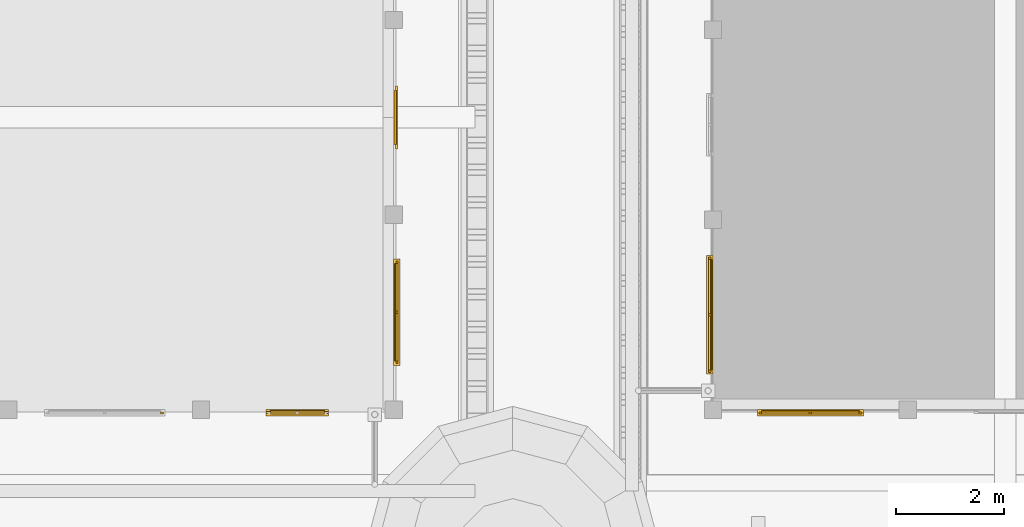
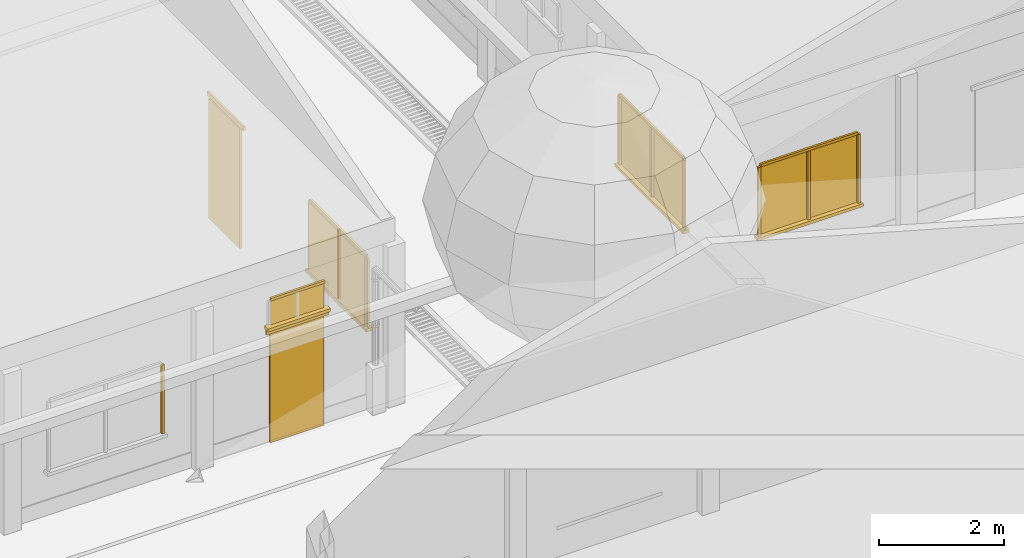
# One storey, part 57 of 166: 22 windows, 4 doors.
"""IFC2X3 building model written with IfcOpenShell, lengths in metres."""

from ifc_helpers import new_model, si_unit, origin, origin_with_axes, place, context, subcontext, project, spatial, faceted_brep, element, save


model = new_model("IFC2X3")

# Units and contexts
model_context = context("Model", 3, precision=1e-05, world=origin_with_axes())
body_context = subcontext(model_context, "Body", "Model", "MODEL_VIEW")
ifc_project = project(units=[si_unit("LENGTHUNIT", "METRE"), si_unit("AREAUNIT", "SQUARE_METRE"), si_unit("VOLUMEUNIT", "CUBIC_METRE"), si_unit("PLANEANGLEUNIT", "RADIAN")], contexts=[model_context])

# Site, building, storey
site_placement = place(None, origin_with_axes())
site = spatial("IfcSite", under=ifc_project, at=site_placement, Name="Predio Los Mangos - Morales, San Martín", CompositionType="ELEMENT")
building_placement = place(site_placement, origin())
building = spatial("IfcBuilding", under=site, at=building_placement, Name="Hogar de Refugio Temporal", CompositionType="ELEMENT")
storey_placement = place(building_placement, origin())
storey = spatial("IfcBuildingStorey", under=building, at=storey_placement, Name="NIVEL 1 (NPT +0.00)", CompositionType="ELEMENT", Elevation=0.0)

# Window
window_1_placement = place(storey_placement, origin())
element("IfcWindow", 1, at=window_1_placement, inside=storey, Name="E-06_v3_m", ObjectType="Ventana", context=body_context, shape_type="Brep", body=[
    faceted_brep([(45.4924, 92.62, 1.05), (45.4924, 92.66, 1.05), (45.5424, 92.66, 1.05), (45.5424, 92.62, 1.05), (45.4924, 92.62, 2.4), (45.5424, 92.62, 2.4), (45.5424, 92.66, 2.4), (45.4924, 92.66, 2.4)], [[[0, 1, 2, 3]], [[4, 5, 6, 7]], [[0, 3, 5, 4]], [[3, 2, 6, 5]], [[2, 1, 7, 6]], [[1, 0, 4, 7]]]),
])

# Doors
door_1_placement = place(storey_placement, origin())
element("IfcDoor", 2, at=door_1_placement, inside=storey, Name="E-06_p4", ObjectType="Puerta", context=body_context, shape_type="Brep", body=[
    faceted_brep([(47.52, 92.65, 0.15), (47.52, 92.69, 0.15), (48.52, 92.69, 0.15), (48.52, 92.65, 0.15), (47.52, 92.65, 2.3), (48.52, 92.65, 2.3), (48.52, 92.69, 2.3), (47.52, 92.69, 2.3)], [[[0, 1, 2, 3]], [[4, 5, 6, 7]], [[0, 3, 5, 4]], [[3, 2, 6, 5]], [[2, 1, 7, 6]], [[1, 0, 4, 7]]]),
])
door_2_placement = place(storey_placement, origin())
element("IfcDoor", 3, at=door_2_placement, inside=storey, Name="E-06_p4_marco", ObjectType="Puerta", context=body_context, shape_type="Brep", body=[
    faceted_brep([(47.44, 92.63, 2.3), (47.44, 92.67, 2.3), (48.6, 92.67, 2.3), (48.6, 92.63, 2.3), (47.44, 92.63, 2.38), (48.6, 92.63, 2.38), (48.6, 92.67, 2.38), (47.44, 92.67, 2.38)], [[[0, 1, 2, 3]], [[4, 5, 6, 7]], [[0, 3, 5, 4]], [[3, 2, 6, 5]], [[2, 1, 7, 6]], [[1, 0, 4, 7]]]),
])

# Windows
window_2_placement = place(storey_placement, origin())
element("IfcWindow", 4, at=window_2_placement, inside=storey, Name="E-06_vt4_vid", ObjectType="Ventana", context=body_context, shape_type="Brep", body=[
    faceted_brep([(47.52, 92.66, 2.45), (47.52, 92.68, 2.45), (48.52, 92.68, 2.45), (48.52, 92.66, 2.45), (47.52, 92.66, 2.95), (48.52, 92.66, 2.95), (48.52, 92.68, 2.95), (47.52, 92.68, 2.95)], [[[0, 1, 2, 3]], [[4, 5, 6, 7]], [[0, 3, 5, 4]], [[3, 2, 6, 5]], [[2, 1, 7, 6]], [[1, 0, 4, 7]]]),
])
window_3_placement = place(storey_placement, origin())
element("IfcWindow", 5, at=window_3_placement, inside=storey, Name="E-06_vt4_m", ObjectType="Ventana", context=body_context, shape_type="Brep", body=[
    faceted_brep([(47.52, 92.62, 2.95), (47.52, 92.66, 2.95), (48.52, 92.66, 2.95), (48.52, 92.62, 2.95), (47.52, 92.62, 3.0), (48.52, 92.62, 3.0), (48.52, 92.66, 3.0), (47.52, 92.66, 3.0)], [[[0, 1, 2, 3]], [[4, 5, 6, 7]], [[0, 3, 5, 4]], [[3, 2, 6, 5]], [[2, 1, 7, 6]], [[1, 0, 4, 7]]]),
])
window_4_placement = place(storey_placement, origin())
element("IfcWindow", 6, at=window_4_placement, inside=storey, Name="E-06_vt4_alf", ObjectType="Ventana", context=body_context, shape_type="Brep", body=[
    faceted_brep([(47.44, 92.7, 2.39), (47.44, 92.58, 2.39), (48.6, 92.58, 2.39), (48.6, 92.7, 2.39), (47.44, 92.7, 2.45), (48.6, 92.7, 2.45), (48.6, 92.58, 2.45), (47.44, 92.58, 2.45)], [[[0, 1, 2, 3]], [[4, 5, 6, 7]], [[0, 3, 5, 4]], [[3, 2, 6, 5]], [[2, 1, 7, 6]], [[1, 0, 4, 7]]]),
])
window_5_placement = place(storey_placement, origin())
element("IfcWindow", 7, at=window_5_placement, inside=storey, Name="E-06_vg0_vid", ObjectType="Ventana", context=body_context, shape_type="Brep", body=[
    faceted_brep([(49.82, 93.6, 1.05), (49.82, 95.4, 1.05), (49.84, 95.4, 1.05), (49.84, 93.6, 1.05), (49.82, 93.6, 2.4), (49.84, 93.6, 2.4), (49.84, 95.4, 2.4), (49.82, 95.4, 2.4)], [[[0, 1, 2, 3]], [[4, 5, 6, 7]], [[0, 3, 5, 4]], [[3, 2, 6, 5]], [[2, 1, 7, 6]], [[1, 0, 4, 7]]]),
])
window_6_placement = place(storey_placement, origin())
element("IfcWindow", 8, at=window_6_placement, inside=storey, Name="E-06_vg0_m", ObjectType="Ventana", context=body_context, shape_type="Brep", body=[
    faceted_brep([(49.84, 93.55, 1.05), (49.84, 93.6, 1.05), (49.88, 93.6, 1.05), (49.88, 93.55, 1.05), (49.84, 93.55, 2.4), (49.88, 93.55, 2.4), (49.88, 93.6, 2.4), (49.84, 93.6, 2.4)], [[[0, 1, 2, 3]], [[4, 5, 6, 7]], [[0, 3, 5, 4]], [[3, 2, 6, 5]], [[2, 1, 7, 6]], [[1, 0, 4, 7]]]),
])
window_7_placement = place(storey_placement, origin())
element("IfcWindow", 9, at=window_7_placement, inside=storey, Name="E-06_vg0_m", ObjectType="Ventana", context=body_context, shape_type="Brep", body=[
    faceted_brep([(49.84, 95.4, 1.05), (49.84, 95.45, 1.05), (49.88, 95.45, 1.05), (49.88, 95.4, 1.05), (49.84, 95.4, 2.4), (49.88, 95.4, 2.4), (49.88, 95.45, 2.4), (49.84, 95.45, 2.4)], [[[0, 1, 2, 3]], [[4, 5, 6, 7]], [[0, 3, 5, 4]], [[3, 2, 6, 5]], [[2, 1, 7, 6]], [[1, 0, 4, 7]]]),
])
window_8_placement = place(storey_placement, origin())
element("IfcWindow", 10, at=window_8_placement, inside=storey, Name="E-06_vg0_m", ObjectType="Ventana", context=body_context, shape_type="Brep", body=[
    faceted_brep([(49.84, 93.6, 2.4), (49.84, 95.4, 2.4), (49.88, 95.4, 2.4), (49.88, 93.6, 2.4), (49.84, 93.6, 2.45), (49.88, 93.6, 2.45), (49.88, 95.4, 2.45), (49.84, 95.4, 2.45)], [[[0, 1, 2, 3]], [[4, 5, 6, 7]], [[0, 3, 5, 4]], [[3, 2, 6, 5]], [[2, 1, 7, 6]], [[1, 0, 4, 7]]]),
])
window_9_placement = place(storey_placement, origin())
element("IfcWindow", 11, at=window_9_placement, inside=storey, Name="E-06_vg0_m", ObjectType="Ventana", context=body_context, shape_type="Brep", body=[
    faceted_brep([(49.84, 94.475, 1.05), (49.84, 94.525, 1.05), (49.88, 94.525, 1.05), (49.88, 94.475, 1.05), (49.84, 94.475, 2.4), (49.88, 94.475, 2.4), (49.88, 94.525, 2.4), (49.84, 94.525, 2.4)], [[[0, 1, 2, 3]], [[4, 5, 6, 7]], [[0, 3, 5, 4]], [[3, 2, 6, 5]], [[2, 1, 7, 6]], [[1, 0, 4, 7]]]),
])
window_10_placement = place(storey_placement, origin())
element("IfcWindow", 12, at=window_10_placement, inside=storey, Name="E-06_vg0_alf", ObjectType="Ventana", context=body_context, shape_type="Brep", body=[
    faceted_brep([(49.8, 93.52, 0.99), (49.8, 95.48, 0.99), (49.92, 95.48, 0.99), (49.92, 93.52, 0.99), (49.8, 93.52, 1.05), (49.92, 93.52, 1.05), (49.92, 95.48, 1.05), (49.8, 95.48, 1.05)], [[[0, 1, 2, 3]], [[4, 5, 6, 7]], [[0, 3, 5, 4]], [[3, 2, 6, 5]], [[2, 1, 7, 6]], [[1, 0, 4, 7]]]),
])

# Doors
door_3_placement = place(storey_placement, origin())
element("IfcDoor", 13, at=door_3_placement, inside=storey, Name="E-06_pp", ObjectType="Puerta", context=body_context, shape_type="Brep", body=[
    faceted_brep([(49.81, 97.6, 0.15), (49.81, 98.6, 0.15), (49.85, 98.6, 0.15), (49.85, 97.6, 0.15), (49.81, 97.6, 2.5), (49.85, 97.6, 2.5), (49.85, 98.6, 2.5), (49.81, 98.6, 2.5)], [[[0, 1, 2, 3]], [[4, 5, 6, 7]], [[0, 3, 5, 4]], [[3, 2, 6, 5]], [[2, 1, 7, 6]], [[1, 0, 4, 7]]]),
])
door_4_placement = place(storey_placement, origin())
element("IfcDoor", 14, at=door_4_placement, inside=storey, Name="E-06_pp_marco", ObjectType="Puerta", context=body_context, shape_type="Brep", body=[
    faceted_brep([(49.83, 97.52, 2.5), (49.83, 98.68, 2.5), (49.87, 98.68, 2.5), (49.87, 97.52, 2.5), (49.83, 97.52, 2.58), (49.87, 97.52, 2.58), (49.87, 98.68, 2.58), (49.83, 98.68, 2.58)], [[[0, 1, 2, 3]], [[4, 5, 6, 7]], [[0, 3, 5, 4]], [[3, 2, 6, 5]], [[2, 1, 7, 6]], [[1, 0, 4, 7]]]),
])

# Windows
window_11_placement = place(storey_placement, origin())
element("IfcWindow", 15, at=window_11_placement, inside=storey, Name="E-07_vg0_vid", ObjectType="Ventana", context=body_context, shape_type="Brep", body=[
    faceted_brep([(56.6, 92.66, 1.05), (56.6, 92.68, 1.05), (58.4, 92.68, 1.05), (58.4, 92.66, 1.05), (56.6, 92.66, 2.4), (58.4, 92.66, 2.4), (58.4, 92.68, 2.4), (56.6, 92.68, 2.4)], [[[0, 1, 2, 3]], [[4, 5, 6, 7]], [[0, 3, 5, 4]], [[3, 2, 6, 5]], [[2, 1, 7, 6]], [[1, 0, 4, 7]]]),
])
window_12_placement = place(storey_placement, origin())
element("IfcWindow", 16, at=window_12_placement, inside=storey, Name="E-07_vg0_m", ObjectType="Ventana", context=body_context, shape_type="Brep", body=[
    faceted_brep([(56.55, 92.62, 1.05), (56.55, 92.66, 1.05), (56.6, 92.66, 1.05), (56.6, 92.62, 1.05), (56.55, 92.62, 2.4), (56.6, 92.62, 2.4), (56.6, 92.66, 2.4), (56.55, 92.66, 2.4)], [[[0, 1, 2, 3]], [[4, 5, 6, 7]], [[0, 3, 5, 4]], [[3, 2, 6, 5]], [[2, 1, 7, 6]], [[1, 0, 4, 7]]]),
])
window_13_placement = place(storey_placement, origin())
element("IfcWindow", 17, at=window_13_placement, inside=storey, Name="E-07_vg0_m", ObjectType="Ventana", context=body_context, shape_type="Brep", body=[
    faceted_brep([(58.4, 92.62, 1.05), (58.4, 92.66, 1.05), (58.45, 92.66, 1.05), (58.45, 92.62, 1.05), (58.4, 92.62, 2.4), (58.45, 92.62, 2.4), (58.45, 92.66, 2.4), (58.4, 92.66, 2.4)], [[[0, 1, 2, 3]], [[4, 5, 6, 7]], [[0, 3, 5, 4]], [[3, 2, 6, 5]], [[2, 1, 7, 6]], [[1, 0, 4, 7]]]),
])
window_14_placement = place(storey_placement, origin())
element("IfcWindow", 18, at=window_14_placement, inside=storey, Name="E-07_vg0_m", ObjectType="Ventana", context=body_context, shape_type="Brep", body=[
    faceted_brep([(56.6, 92.62, 2.4), (56.6, 92.66, 2.4), (58.4, 92.66, 2.4), (58.4, 92.62, 2.4), (56.6, 92.62, 2.45), (58.4, 92.62, 2.45), (58.4, 92.66, 2.45), (56.6, 92.66, 2.45)], [[[0, 1, 2, 3]], [[4, 5, 6, 7]], [[0, 3, 5, 4]], [[3, 2, 6, 5]], [[2, 1, 7, 6]], [[1, 0, 4, 7]]]),
])
window_15_placement = place(storey_placement, origin())
element("IfcWindow", 19, at=window_15_placement, inside=storey, Name="E-07_vg0_m", ObjectType="Ventana", context=body_context, shape_type="Brep", body=[
    faceted_brep([(57.475, 92.62, 1.05), (57.475, 92.66, 1.05), (57.525, 92.66, 1.05), (57.525, 92.62, 1.05), (57.475, 92.62, 2.4), (57.525, 92.62, 2.4), (57.525, 92.66, 2.4), (57.475, 92.66, 2.4)], [[[0, 1, 2, 3]], [[4, 5, 6, 7]], [[0, 3, 5, 4]], [[3, 2, 6, 5]], [[2, 1, 7, 6]], [[1, 0, 4, 7]]]),
])
window_16_placement = place(storey_placement, origin())
element("IfcWindow", 20, at=window_16_placement, inside=storey, Name="E-07_vg0_alf", ObjectType="Ventana", context=body_context, shape_type="Brep", body=[
    faceted_brep([(56.52, 92.7, 0.99), (56.52, 92.58, 0.99), (58.48, 92.58, 0.99), (58.48, 92.7, 0.99), (56.52, 92.7, 1.05), (58.48, 92.7, 1.05), (58.48, 92.58, 1.05), (56.52, 92.58, 1.05)], [[[0, 1, 2, 3]], [[4, 5, 6, 7]], [[0, 3, 5, 4]], [[3, 2, 6, 5]], [[2, 1, 7, 6]], [[1, 0, 4, 7]]]),
])
window_17_placement = place(storey_placement, origin())
element("IfcWindow", 21, at=window_17_placement, inside=storey, Name="E-07_v0_vid", ObjectType="Ventana", context=body_context, shape_type="Brep", body=[
    faceted_brep([(55.66, 93.4371, 1.05), (55.66, 95.4729, 1.05), (55.68, 95.4729, 1.05), (55.68, 93.4371, 1.05), (55.66, 93.4371, 2.4), (55.68, 93.4371, 2.4), (55.68, 95.4729, 2.4), (55.66, 95.4729, 2.4)], [[[0, 1, 2, 3]], [[4, 5, 6, 7]], [[0, 3, 5, 4]], [[3, 2, 6, 5]], [[2, 1, 7, 6]], [[1, 0, 4, 7]]]),
])
window_18_placement = place(storey_placement, origin())
element("IfcWindow", 22, at=window_18_placement, inside=storey, Name="E-07_v0_m", ObjectType="Ventana", context=body_context, shape_type="Brep", body=[
    faceted_brep([(55.62, 93.3871, 1.05), (55.62, 93.4371, 1.05), (55.66, 93.4371, 1.05), (55.66, 93.3871, 1.05), (55.62, 93.3871, 2.4), (55.66, 93.3871, 2.4), (55.66, 93.4371, 2.4), (55.62, 93.4371, 2.4)], [[[0, 1, 2, 3]], [[4, 5, 6, 7]], [[0, 3, 5, 4]], [[3, 2, 6, 5]], [[2, 1, 7, 6]], [[1, 0, 4, 7]]]),
])
window_19_placement = place(storey_placement, origin())
element("IfcWindow", 23, at=window_19_placement, inside=storey, Name="E-07_v0_m", ObjectType="Ventana", context=body_context, shape_type="Brep", body=[
    faceted_brep([(55.62, 95.4729, 1.05), (55.62, 95.5229, 1.05), (55.66, 95.5229, 1.05), (55.66, 95.4729, 1.05), (55.62, 95.4729, 2.4), (55.66, 95.4729, 2.4), (55.66, 95.5229, 2.4), (55.62, 95.5229, 2.4)], [[[0, 1, 2, 3]], [[4, 5, 6, 7]], [[0, 3, 5, 4]], [[3, 2, 6, 5]], [[2, 1, 7, 6]], [[1, 0, 4, 7]]]),
])
window_20_placement = place(storey_placement, origin())
element("IfcWindow", 24, at=window_20_placement, inside=storey, Name="E-07_v0_m", ObjectType="Ventana", context=body_context, shape_type="Brep", body=[
    faceted_brep([(55.62, 93.4371, 2.4), (55.62, 95.4729, 2.4), (55.66, 95.4729, 2.4), (55.66, 93.4371, 2.4), (55.62, 93.4371, 2.45), (55.66, 93.4371, 2.45), (55.66, 95.4729, 2.45), (55.62, 95.4729, 2.45)], [[[0, 1, 2, 3]], [[4, 5, 6, 7]], [[0, 3, 5, 4]], [[3, 2, 6, 5]], [[2, 1, 7, 6]], [[1, 0, 4, 7]]]),
])
window_21_placement = place(storey_placement, origin())
element("IfcWindow", 25, at=window_21_placement, inside=storey, Name="E-07_v0_m", ObjectType="Ventana", context=body_context, shape_type="Brep", body=[
    faceted_brep([(55.62, 94.43, 1.05), (55.62, 94.48, 1.05), (55.66, 94.48, 1.05), (55.66, 94.43, 1.05), (55.62, 94.43, 2.4), (55.66, 94.43, 2.4), (55.66, 94.48, 2.4), (55.62, 94.48, 2.4)], [[[0, 1, 2, 3]], [[4, 5, 6, 7]], [[0, 3, 5, 4]], [[3, 2, 6, 5]], [[2, 1, 7, 6]], [[1, 0, 4, 7]]]),
])
window_22_placement = place(storey_placement, origin())
element("IfcWindow", 26, at=window_22_placement, inside=storey, Name="E-07_v0_alf", ObjectType="Ventana", context=body_context, shape_type="Brep", body=[
    faceted_brep([(55.7, 93.3571, 0.99), (55.7, 95.5529, 0.99), (55.58, 95.5529, 0.99), (55.58, 93.3571, 0.99), (55.7, 93.3571, 1.05), (55.58, 93.3571, 1.05), (55.58, 95.5529, 1.05), (55.7, 95.5529, 1.05)], [[[0, 1, 2, 3]], [[4, 5, 6, 7]], [[0, 3, 5, 4]], [[3, 2, 6, 5]], [[2, 1, 7, 6]], [[1, 0, 4, 7]]]),
])

save(model, "model.ifc")
